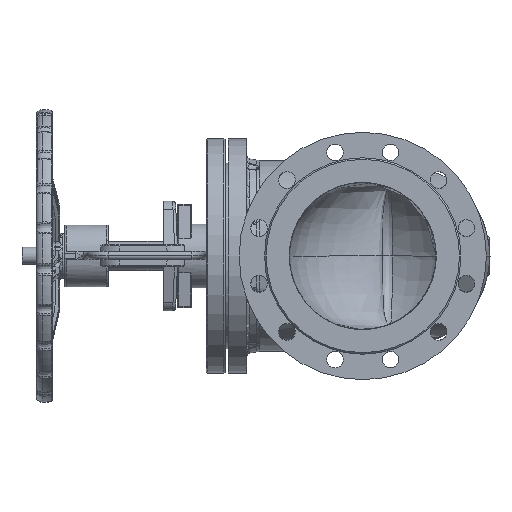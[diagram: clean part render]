
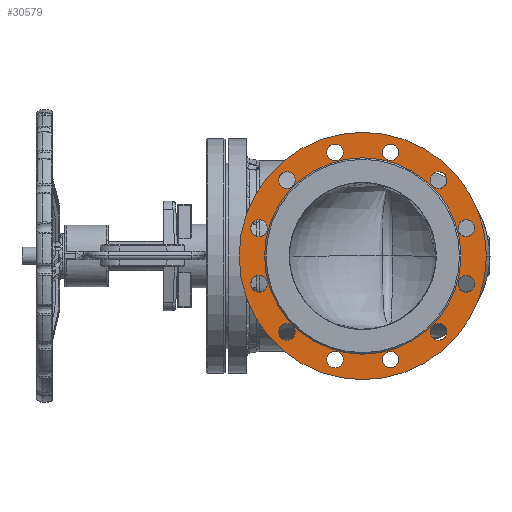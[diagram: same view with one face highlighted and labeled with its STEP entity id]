
A CAD part, left-side view. The second image highlights one B-rep face of the part: STEP entity #30579.
In plain terms, the highlighted planar face has unit normal (-1, 0, 0) by its records, which use the part's own axes.
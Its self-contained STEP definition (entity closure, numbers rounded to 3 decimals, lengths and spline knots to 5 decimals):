
#326=FACE_BOUND('',#8813,.T.);
#327=FACE_BOUND('',#8814,.T.);
#328=FACE_BOUND('',#8815,.T.);
#329=FACE_BOUND('',#8816,.T.);
#330=FACE_BOUND('',#8817,.T.);
#331=FACE_BOUND('',#8818,.T.);
#332=FACE_BOUND('',#8819,.T.);
#333=FACE_BOUND('',#8820,.T.);
#334=FACE_BOUND('',#8821,.T.);
#335=FACE_BOUND('',#8822,.T.);
#336=FACE_BOUND('',#8823,.T.);
#337=FACE_BOUND('',#8824,.T.);
#338=FACE_BOUND('',#8825,.T.);
#3120=PLANE('',#32798);
#6830=FACE_OUTER_BOUND('',#8812,.T.);
#8812=EDGE_LOOP('',(#21059));
#8813=EDGE_LOOP('',(#21060));
#8814=EDGE_LOOP('',(#21061));
#8815=EDGE_LOOP('',(#21062));
#8816=EDGE_LOOP('',(#21063));
#8817=EDGE_LOOP('',(#21064));
#8818=EDGE_LOOP('',(#21065));
#8819=EDGE_LOOP('',(#21066));
#8820=EDGE_LOOP('',(#21067));
#8821=EDGE_LOOP('',(#21068));
#8822=EDGE_LOOP('',(#21069));
#8823=EDGE_LOOP('',(#21070));
#8824=EDGE_LOOP('',(#21071));
#8825=EDGE_LOOP('',(#21072));
#10786=CIRCLE('',#32720,0.135);
#10789=CIRCLE('',#32724,0.17);
#10812=CIRCLE('',#32764,0.0115);
#10813=CIRCLE('',#32766,0.0115);
#10814=CIRCLE('',#32768,0.0115);
#10815=CIRCLE('',#32770,0.0115);
#10816=CIRCLE('',#32772,0.0115);
#10817=CIRCLE('',#32774,0.0115);
#10831=CIRCLE('',#32799,0.0115);
#10832=CIRCLE('',#32800,0.0115);
#10833=CIRCLE('',#32801,0.0115);
#10834=CIRCLE('',#32802,0.0115);
#10835=CIRCLE('',#32803,0.0115);
#10836=CIRCLE('',#32804,0.0115);
#12574=VERTEX_POINT('',#90961);
#12578=VERTEX_POINT('',#90970);
#12613=VERTEX_POINT('',#93151);
#12615=VERTEX_POINT('',#93190);
#12617=VERTEX_POINT('',#93229);
#12619=VERTEX_POINT('',#93268);
#12621=VERTEX_POINT('',#93307);
#12623=VERTEX_POINT('',#93346);
#12647=VERTEX_POINT('',#94086);
#12648=VERTEX_POINT('',#94088);
#12649=VERTEX_POINT('',#94090);
#12650=VERTEX_POINT('',#94092);
#12651=VERTEX_POINT('',#94094);
#12652=VERTEX_POINT('',#94096);
#15576=EDGE_CURVE('',#12574,#12574,#10786,.T.);
#15581=EDGE_CURVE('',#12578,#12578,#10789,.T.);
#15636=EDGE_CURVE('',#12613,#12613,#10812,.T.);
#15639=EDGE_CURVE('',#12615,#12615,#10813,.T.);
#15642=EDGE_CURVE('',#12617,#12617,#10814,.T.);
#15645=EDGE_CURVE('',#12619,#12619,#10815,.T.);
#15648=EDGE_CURVE('',#12621,#12621,#10816,.T.);
#15651=EDGE_CURVE('',#12623,#12623,#10817,.T.);
#15680=EDGE_CURVE('',#12647,#12647,#10831,.T.);
#15681=EDGE_CURVE('',#12648,#12648,#10832,.T.);
#15682=EDGE_CURVE('',#12649,#12649,#10833,.T.);
#15683=EDGE_CURVE('',#12650,#12650,#10834,.T.);
#15684=EDGE_CURVE('',#12651,#12651,#10835,.T.);
#15685=EDGE_CURVE('',#12652,#12652,#10836,.T.);
#21059=ORIENTED_EDGE('',*,*,#15581,.F.);
#21060=ORIENTED_EDGE('',*,*,#15680,.F.);
#21061=ORIENTED_EDGE('',*,*,#15681,.F.);
#21062=ORIENTED_EDGE('',*,*,#15682,.F.);
#21063=ORIENTED_EDGE('',*,*,#15683,.F.);
#21064=ORIENTED_EDGE('',*,*,#15684,.F.);
#21065=ORIENTED_EDGE('',*,*,#15685,.F.);
#21066=ORIENTED_EDGE('',*,*,#15576,.T.);
#21067=ORIENTED_EDGE('',*,*,#15651,.F.);
#21068=ORIENTED_EDGE('',*,*,#15648,.F.);
#21069=ORIENTED_EDGE('',*,*,#15645,.F.);
#21070=ORIENTED_EDGE('',*,*,#15642,.F.);
#21071=ORIENTED_EDGE('',*,*,#15639,.F.);
#21072=ORIENTED_EDGE('',*,*,#15636,.F.);
#30579=ADVANCED_FACE('',(#6830,#326,#327,#328,#329,#330,#331,#332,#333,
#334,#335,#336,#337,#338),#3120,.F.);
#32720=AXIS2_PLACEMENT_3D('',#90962,#35749,#35750);
#32724=AXIS2_PLACEMENT_3D('',#90972,#35759,#35760);
#32764=AXIS2_PLACEMENT_3D('',#93153,#35853,#35854);
#32766=AXIS2_PLACEMENT_3D('',#93192,#35858,#35859);
#32768=AXIS2_PLACEMENT_3D('',#93231,#35863,#35864);
#32770=AXIS2_PLACEMENT_3D('',#93270,#35868,#35869);
#32772=AXIS2_PLACEMENT_3D('',#93309,#35873,#35874);
#32774=AXIS2_PLACEMENT_3D('',#93348,#35878,#35879);
#32798=AXIS2_PLACEMENT_3D('',#94085,#35926,#35927);
#32799=AXIS2_PLACEMENT_3D('',#94087,#35928,#35929);
#32800=AXIS2_PLACEMENT_3D('',#94089,#35930,#35931);
#32801=AXIS2_PLACEMENT_3D('',#94091,#35932,#35933);
#32802=AXIS2_PLACEMENT_3D('',#94093,#35934,#35935);
#32803=AXIS2_PLACEMENT_3D('',#94095,#35936,#35937);
#32804=AXIS2_PLACEMENT_3D('',#94097,#35938,#35939);
#35749=DIRECTION('center_axis',(1.,0.,0.));
#35750=DIRECTION('ref_axis',(0.,0.,-1.));
#35759=DIRECTION('center_axis',(1.,0.,0.));
#35760=DIRECTION('ref_axis',(0.,0.,-1.));
#35853=DIRECTION('center_axis',(-1.,0.,0.));
#35854=DIRECTION('ref_axis',(0.,0.,1.));
#35858=DIRECTION('center_axis',(-1.,0.,0.));
#35859=DIRECTION('ref_axis',(0.,0.,1.));
#35863=DIRECTION('center_axis',(-1.,0.,0.));
#35864=DIRECTION('ref_axis',(0.,0.,1.));
#35868=DIRECTION('center_axis',(-1.,0.,0.));
#35869=DIRECTION('ref_axis',(0.,0.,1.));
#35873=DIRECTION('center_axis',(-1.,0.,0.));
#35874=DIRECTION('ref_axis',(0.,0.,1.));
#35878=DIRECTION('center_axis',(-1.,0.,0.));
#35879=DIRECTION('ref_axis',(0.,0.,1.));
#35926=DIRECTION('center_axis',(1.,0.,0.));
#35927=DIRECTION('ref_axis',(0.,1.,0.));
#35928=DIRECTION('center_axis',(-1.,0.,0.));
#35929=DIRECTION('ref_axis',(0.,0.,1.));
#35930=DIRECTION('center_axis',(-1.,0.,0.));
#35931=DIRECTION('ref_axis',(0.,0.,1.));
#35932=DIRECTION('center_axis',(-1.,0.,0.));
#35933=DIRECTION('ref_axis',(0.,0.,1.));
#35934=DIRECTION('center_axis',(-1.,0.,0.));
#35935=DIRECTION('ref_axis',(0.,0.,1.));
#35936=DIRECTION('center_axis',(-1.,0.,0.));
#35937=DIRECTION('ref_axis',(0.,0.,1.));
#35938=DIRECTION('center_axis',(-1.,0.,0.));
#35939=DIRECTION('ref_axis',(0.,0.,1.));
#90961=CARTESIAN_POINT('',(-0.3,0.,0.135));
#90962=CARTESIAN_POINT('Origin',(-0.3,0.,0.));
#90970=CARTESIAN_POINT('',(-0.3,0.,0.17));
#90972=CARTESIAN_POINT('Origin',(-0.3,0.,0.));
#93151=CARTESIAN_POINT('',(-0.3,-0.14247,0.02668));
#93153=CARTESIAN_POINT('Origin',(-0.3,-0.14247,0.03818));
#93190=CARTESIAN_POINT('',(-0.3,-0.1043,0.0928));
#93192=CARTESIAN_POINT('Origin',(-0.3,-0.1043,0.1043));
#93229=CARTESIAN_POINT('',(-0.3,-0.03818,0.13097));
#93231=CARTESIAN_POINT('Origin',(-0.3,-0.03818,0.14247));
#93268=CARTESIAN_POINT('',(-0.3,0.03818,0.13097));
#93270=CARTESIAN_POINT('Origin',(-0.3,0.03818,0.14247));
#93307=CARTESIAN_POINT('',(-0.3,0.1043,0.0928));
#93309=CARTESIAN_POINT('Origin',(-0.3,0.1043,0.1043));
#93346=CARTESIAN_POINT('',(-0.3,0.14247,0.02668));
#93348=CARTESIAN_POINT('Origin',(-0.3,0.14247,0.03818));
#94085=CARTESIAN_POINT('Origin',(-0.3,0.17,0.));
#94086=CARTESIAN_POINT('',(-0.3,0.14247,-0.04968));
#94087=CARTESIAN_POINT('Origin',(-0.3,0.14247,-0.03818));
#94088=CARTESIAN_POINT('',(-0.3,0.1043,-0.1158));
#94089=CARTESIAN_POINT('Origin',(-0.3,0.1043,-0.1043));
#94090=CARTESIAN_POINT('',(-0.3,0.03818,-0.15397));
#94091=CARTESIAN_POINT('Origin',(-0.3,0.03818,-0.14247));
#94092=CARTESIAN_POINT('',(-0.3,-0.03818,-0.15397));
#94093=CARTESIAN_POINT('Origin',(-0.3,-0.03818,-0.14247));
#94094=CARTESIAN_POINT('',(-0.3,-0.1043,-0.1158));
#94095=CARTESIAN_POINT('Origin',(-0.3,-0.1043,-0.1043));
#94096=CARTESIAN_POINT('',(-0.3,-0.14247,-0.04968));
#94097=CARTESIAN_POINT('Origin',(-0.3,-0.14247,-0.03818));
